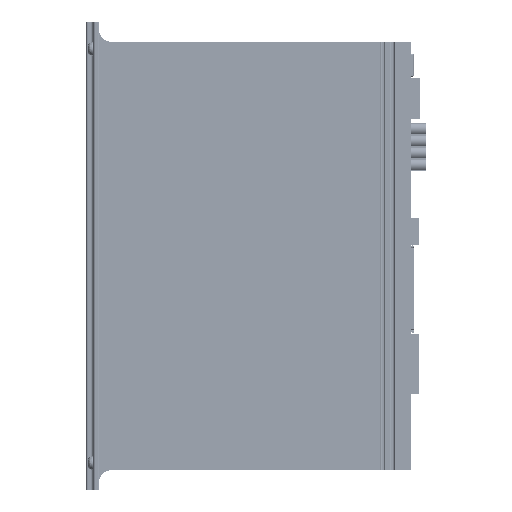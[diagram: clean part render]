
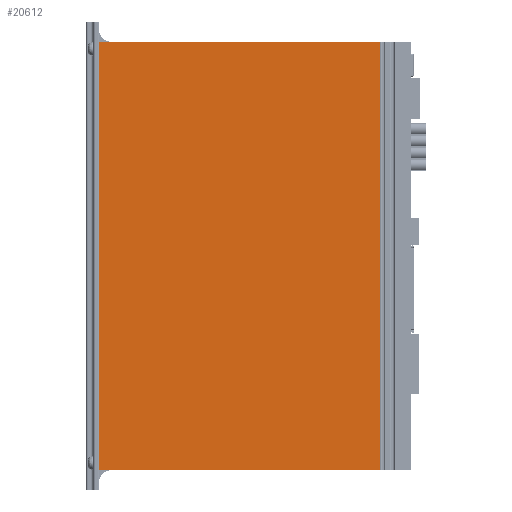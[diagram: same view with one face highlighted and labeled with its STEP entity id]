
A CAD part, front view. The second image highlights one B-rep face of the part: STEP entity #20612.
In plain terms, the highlighted planar face has unit normal (0, -1, 0) as drawn and (-1, 0, 0) by its records, which use the part's own axes.
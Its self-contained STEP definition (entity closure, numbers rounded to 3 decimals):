
#8974=DIRECTION('',(0.,-1.,0.));
#8975=VECTOR('',#8974,179.4);
#8976=CARTESIAN_POINT('',(-23.5,89.7,13.));
#8977=LINE('',#8976,#8975);
#8981=DIRECTION('',(0.,0.,-1.));
#8982=VECTOR('',#8981,118.1);
#8983=CARTESIAN_POINT('',(-23.5,89.7,131.1));
#8984=LINE('',#8983,#8982);
#8988=DIRECTION('',(0.,0.,-1.));
#8989=VECTOR('',#8988,118.1);
#8990=CARTESIAN_POINT('',(-23.5,-89.7,131.1));
#8991=LINE('',#8990,#8989);
#11291=DIRECTION('',(0.,-1.,0.));
#11292=VECTOR('',#11291,179.4);
#11293=CARTESIAN_POINT('',(-23.5,89.7,131.1));
#11294=LINE('',#11293,#11292);
#18665=CARTESIAN_POINT('',(-23.5,-89.7,131.1));
#18667=VERTEX_POINT('',#18665);
#18694=CARTESIAN_POINT('',(-23.5,89.7,131.1));
#18696=VERTEX_POINT('',#18694);
#19279=CARTESIAN_POINT('',(-23.5,89.7,13.));
#19280=CARTESIAN_POINT('',(-23.5,-89.7,13.));
#19281=VERTEX_POINT('',#19279);
#19282=VERTEX_POINT('',#19280);
#20597=CARTESIAN_POINT('',(-23.5,90.,0.));
#20598=DIRECTION('',(-1.,0.,0.));
#20599=DIRECTION('',(0.,-1.,0.));
#20600=AXIS2_PLACEMENT_3D('',#20597,#20598,#20599);
#20601=PLANE('',#20600);
#20603=ORIENTED_EDGE('',*,*,#20602,.F.);
#20605=ORIENTED_EDGE('',*,*,#20604,.F.);
#20607=ORIENTED_EDGE('',*,*,#20606,.T.);
#20609=ORIENTED_EDGE('',*,*,#20608,.T.);
#20610=EDGE_LOOP('',(#20603,#20605,#20607,#20609));
#20611=FACE_OUTER_BOUND('',#20610,.F.);
#20602=EDGE_CURVE('',#19281,#19282,#8977,.T.);
#20604=EDGE_CURVE('',#18696,#19281,#8984,.T.);
#20606=EDGE_CURVE('',#18696,#18667,#11294,.T.);
#20608=EDGE_CURVE('',#18667,#19282,#8991,.T.);
#20612=ADVANCED_FACE('',(#20611),#20601,.T.);
